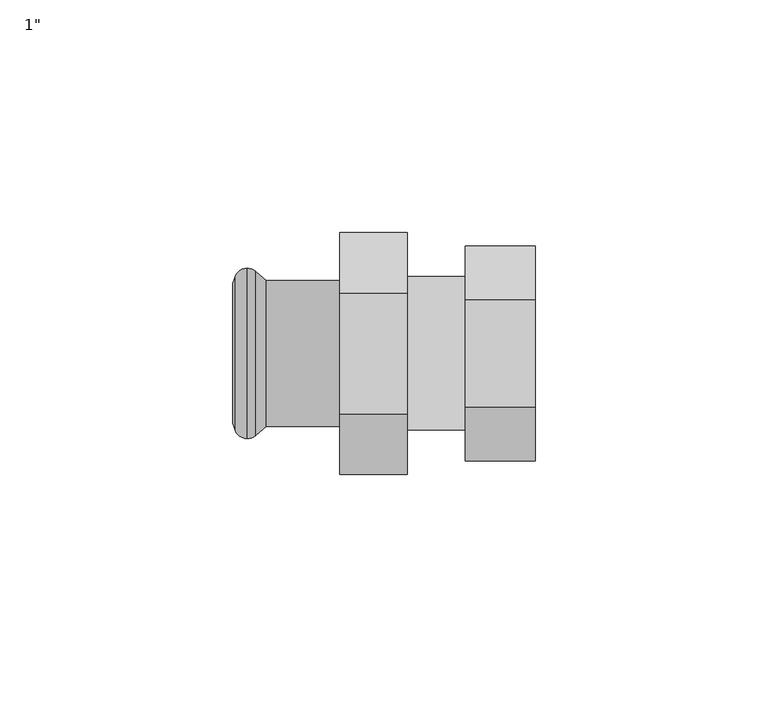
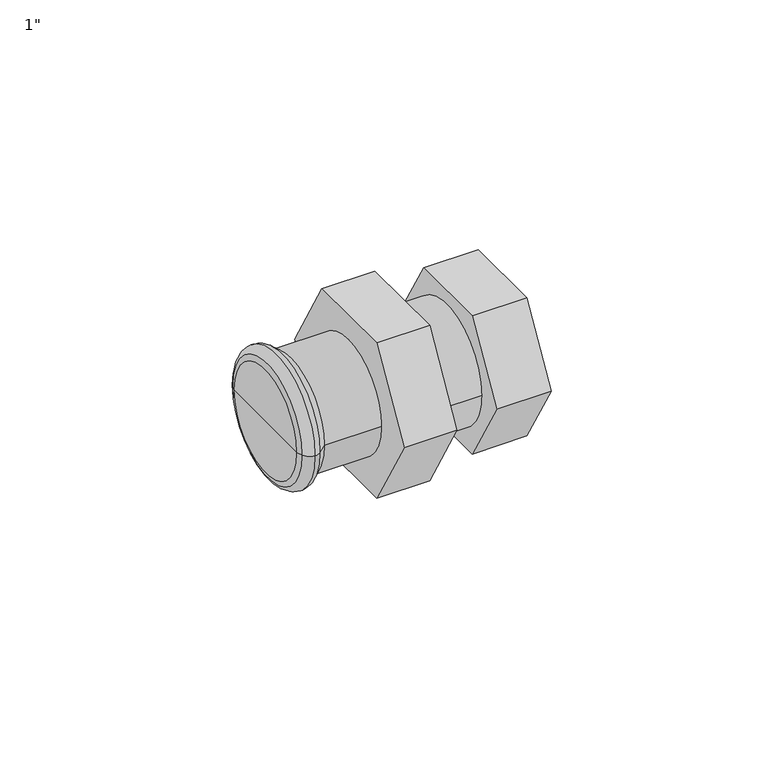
"""IFC4 building model written with IfcOpenShell, lengths in millimetres: pipe fitting geometry."""

import ifcopenshell
import ifcopenshell.guid

model = None  # the IFC model being written
_history = None  # IfcOwnerHistory: only IFC2X3 demands one
_inside = {}  # id of a spatial element -> (the spatial element, [elements in it])
_under = {}  # id of a project, library or spatial element -> (it, [spatial elements below it])
_declared = {}  # id of a project -> (the project, [libraries it declares])
_typed = {}  # id of a type object -> (the type object, [elements of that type])
_made_of = {}  # id of a material, layer set ... -> (it, [elements and type objects made of it])


def new_model(schema):
    """Start an empty IFC model of exactly this schema.

    Asked for "IFC4X3", IfcOpenShell would pick the latest addendum, in which some entities
    have other attributes; the version numbers below select the first issue.
    IFC2X3 requires an IfcOwnerHistory on every rooted entity: one is made here for all.
    """
    global model, _history
    if schema == "IFC4X3":
        model = ifcopenshell.file(schema_version=(4, 3, 0, 0))
    else:
        model = ifcopenshell.file(schema=schema)
    _inside.clear()
    _under.clear()
    _declared.clear()
    _typed.clear()
    _made_of.clear()
    _history = None
    if model.schema == "IFC2X3":
        org = make("IfcOrganization", Name="unknown")
        user = make(
            "IfcPersonAndOrganization",
            ThePerson=make("IfcPerson", FamilyName="unknown"),
            TheOrganization=org,
        )
        app = make(
            "IfcApplication",
            ApplicationDeveloper=org,
            Version="unknown",
            ApplicationFullName="unknown",
            ApplicationIdentifier="unknown",
        )
        _history = make(
            "IfcOwnerHistory",
            OwningUser=user,
            OwningApplication=app,
            ChangeAction="ADDED",
            CreationDate=0,
        )
    return model


def make(cls, **values):
    """One entity of the class cls with the attributes given. An attribute that is None is left unset."""
    return model.create_entity(
        cls, **{name: value for name, value in values.items() if value is not None}
    )


def rooted(cls, **values):
    """An entity with a GlobalId (a new one), such as an element, a storey or a relation."""
    return make(cls, GlobalId=ifcopenshell.guid.new(), OwnerHistory=_history, **values)


def si_unit(unit_type, name, prefix=None):
    """IfcSIUnit, for example si_unit("LENGTHUNIT", "METRE", prefix="MILLI")."""
    return make("IfcSIUnit", UnitType=unit_type, Prefix=prefix, Name=name)


def assignment(units):
    """IfcUnitAssignment: the units of a project."""
    return None if units is None else make("IfcUnitAssignment", Units=units)


def point(xyz):
    """IfcCartesianPoint."""
    return None if xyz is None else make("IfcCartesianPoint", Coordinates=xyz)


def direction(xyz):
    """IfcDirection."""
    return None if xyz is None else make("IfcDirection", DirectionRatios=xyz)


def frame(location, z_axis=None, x_axis=None):
    """IfcAxis2Placement3D, a coordinate frame: its origin and axes. An axis left out is left unset."""
    return make(
        "IfcAxis2Placement3D",
        Location=point(location),
        Axis=direction(z_axis),
        RefDirection=direction(x_axis),
    )


def frame_2d(location, x_axis=None):
    """IfcAxis2Placement2D, a coordinate frame in the plane: its origin and x axis."""
    return make(
        "IfcAxis2Placement2D", Location=point(location), RefDirection=direction(x_axis)
    )


def origin():
    """The frame at (0, 0, 0) with its axes left unset."""
    return frame((0.0, 0.0, 0.0))


def origin_2d():
    """The frame at (0, 0) in the plane with its x axis left unset."""
    return frame_2d((0.0, 0.0))


def place(relative_to, where):
    """IfcLocalPlacement: puts the frame where relative to a parent placement (None: the world)."""
    return make(
        "IfcLocalPlacement", PlacementRelTo=relative_to, RelativePlacement=where
    )


def context(
    kind, dimensions, precision=None, world=None, true_north=None, identifier=None
):
    """IfcGeometricRepresentationContext, for example the 3D "Model" context."""
    return make(
        "IfcGeometricRepresentationContext",
        ContextIdentifier=identifier,
        ContextType=kind,
        CoordinateSpaceDimension=dimensions,
        Precision=precision,
        WorldCoordinateSystem=world,
        TrueNorth=true_north,
    )


def project(units=None, contexts=None):
    """IfcProject with its units and contexts."""
    return rooted(
        "IfcProject",
        Name="project",
        RepresentationContexts=contexts,
        UnitsInContext=assignment(units),
    )


def spatial(cls, under=None, at=None, **own):
    """A site, building, storey or space (cls), placed at a placement, below another one or the project."""
    s = rooted(cls, ObjectPlacement=at, **own)
    if under is not None:
        _under.setdefault(under.id(), (under, []))[1].append(s)
    return s


def polyline(points):
    """IfcPolyline through the points."""
    return make("IfcPolyline", Points=[point(p) for p in points])


def circle_curve(where, radius):
    """IfcCircle in the frame where."""
    return make("IfcCircle", Position=where, Radius=radius)


def ellipse_curve(where, semi_axis1, semi_axis2):
    """IfcEllipse in the frame where."""
    return make(
        "IfcEllipse", Position=where, SemiAxis1=semi_axis1, SemiAxis2=semi_axis2
    )


def trimmed(basis, trim1, trim2, sense, master):
    """IfcTrimmedCurve: the piece of a basis curve between two trims."""
    return make(
        "IfcTrimmedCurve",
        BasisCurve=basis,
        Trim1=trim1,
        Trim2=trim2,
        SenseAgreement=sense,
        MasterRepresentation=master,
    )


def segment(curve, same_sense, transition):
    """IfcCompositeCurveSegment."""
    return make(
        "IfcCompositeCurveSegment",
        Transition=transition,
        SameSense=same_sense,
        ParentCurve=curve,
    )


def composite_curve(segments, self_intersect=None):
    """IfcCompositeCurve: segments joined end to end."""
    return make("IfcCompositeCurve", Segments=segments, SelfIntersect=self_intersect)


def outline(outer, holes=None, kind="AREA"):
    """IfcArbitraryClosedProfileDef: a profile drawn as a closed curve; with holes, ...WithVoids."""
    if holes is None:
        return make("IfcArbitraryClosedProfileDef", ProfileType=kind, OuterCurve=outer)
    return make(
        "IfcArbitraryProfileDefWithVoids",
        ProfileType=kind,
        OuterCurve=outer,
        InnerCurves=holes,
    )


def extrude(swept, where, along, depth):
    """IfcExtrudedAreaSolid: the profile swept, set in the frame where, extruded along a direction by depth."""
    return make(
        "IfcExtrudedAreaSolid",
        SweptArea=swept,
        Position=where,
        ExtrudedDirection=direction(along),
        Depth=depth,
    )


def shape(context_of_items, identifier, shape_type, items):
    """IfcShapeRepresentation: the items that make up one representation, for example the "Body"."""
    return make(
        "IfcShapeRepresentation",
        ContextOfItems=context_of_items,
        RepresentationIdentifier=identifier,
        RepresentationType=shape_type,
        Items=items,
    )


def source(mapping_origin, context_of_items, identifier, shape_type, items):
    """IfcRepresentationMap: a shape defined once, which mapped items show again and again."""
    return make(
        "IfcRepresentationMap",
        MappingOrigin=mapping_origin,
        MappedRepresentation=shape(context_of_items, identifier, shape_type, items),
    )


def transform(
    local_origin,
    x_axis=None,
    y_axis=None,
    z_axis=None,
    scale=None,
    scale2=None,
    scale3=None,
    uniform=True,
):
    """IfcCartesianTransformationOperator3D, or its non-uniform kind. x_axis, y_axis, z_axis: its Axis1, 2, 3."""
    if uniform:
        return make(
            "IfcCartesianTransformationOperator3D",
            Axis1=direction(x_axis),
            Axis2=direction(y_axis),
            LocalOrigin=point(local_origin),
            Scale=scale,
            Axis3=direction(z_axis),
        )
    return make(
        "IfcCartesianTransformationOperator3DnonUniform",
        Axis1=direction(x_axis),
        Axis2=direction(y_axis),
        LocalOrigin=point(local_origin),
        Scale=scale,
        Axis3=direction(z_axis),
        Scale2=scale2,
        Scale3=scale3,
    )


def mapped(mapping_source, mapping_target):
    """IfcMappedItem: shows the shape of a source again, moved by a transform."""
    return make(
        "IfcMappedItem", MappingSource=mapping_source, MappingTarget=mapping_target
    )


def made_of(thing, what):
    """Note that an element or type object is made of a material, layer set ...; save() writes the relation."""
    if what is not None:
        _made_of.setdefault(what.id(), (what, []))[1].append(thing)
    return thing


def element(
    cls,
    number,
    at=None,
    inside=None,
    cuts=None,
    type_object=None,
    material=None,
    context=None,
    identifier="Body",
    shape_type=None,
    held_by="IfcProductDefinitionShape",
    body=None,
    shapes=None,
    **own,
):
    """One element of the class cls, such as IfcWall. Its Tag is "e" and its number.

    at: its placement. inside: the storey or other place that contains it. cuts: it is an
    opening in that element (IfcRelVoidsElement). A single representation is given by context,
    identifier, shape_type and body (its items); several are given by shapes. held_by: the class
    of the entity that holds the representations. save() writes the other relations.
    """
    e = rooted(cls, Tag="e%d" % number, ObjectPlacement=at, **own)
    if body is not None:
        shapes = [shape(context, identifier, shape_type, body)]
    if shapes is not None:
        e.Representation = make(held_by, Representations=shapes)
    if inside is not None:
        _inside.setdefault(inside.id(), (inside, []))[1].append(e)
    if cuts is not None:
        rooted(
            "IfcRelVoidsElement", RelatingBuildingElement=cuts, RelatedOpeningElement=e
        )
    if type_object is not None:
        _typed.setdefault(type_object.id(), (type_object, []))[1].append(e)
    return made_of(e, material)


def aggregate(whole, parts):
    """IfcRelAggregates: a whole, such as a stair, and the parts it consists of."""
    return rooted("IfcRelAggregates", RelatingObject=whole, RelatedObjects=parts)


def save(model, path):
    """Write the relations noted so far, then the file.

    IfcRelAggregates (storeys below a building ...), IfcRelContainedInSpatialStructure (elements
    in a storey), IfcRelDefinesByType, IfcRelAssociatesMaterial and IfcRelDeclares: one each for
    every whole, place, type object, material and project.
    """
    for whole, parts in _under.values():
        aggregate(whole, parts)
    for where, things in _inside.values():
        rooted(
            "IfcRelContainedInSpatialStructure",
            RelatedElements=things,
            RelatingStructure=where,
        )
    for kind, things in _typed.values():
        rooted("IfcRelDefinesByType", RelatedObjects=things, RelatingType=kind)
    for what, things in _made_of.values():
        rooted("IfcRelAssociatesMaterial", RelatedObjects=things, RelatingMaterial=what)
    for by, libraries in _declared.values():
        rooted("IfcRelDeclares", RelatingContext=by, RelatedDefinitions=libraries)
    model.write(path)


def plane_surface(at):
    """IfcPlane: the flat surface through the origin of the frame at, square to its z axis."""
    return make("IfcPlane", Position=at)


def cylinder_surface(at, radius):
    """IfcCylindricalSurface: all points at the distance radius from the z axis of the frame at."""
    return make("IfcCylindricalSurface", Position=at, Radius=radius)


def revolved_surface(curve, axis_point, axis_direction):
    """IfcSurfaceOfRevolution: the curve turned about the line through axis_point along axis_direction."""
    return make(
        "IfcSurfaceOfRevolution",
        SweptCurve=make("IfcArbitraryOpenProfileDef", ProfileType="CURVE", Curve=curve),
        AxisPosition=make("IfcAxis1Placement", Location=point(axis_point), Axis=direction(axis_direction)),
    )


def advanced_brep(points, edges, surfaces, faces):
    """IfcAdvancedBrep: a solid bounded by faces that lie on surfaces and meet in shared edges.

    An edge is (start, end): straight between two places in points (the first is 0);
    or (start, end, curve); or (start, end, curve, False) where it runs against its curve.
    A face is (place in surfaces, loops), or (place, loops, False) where it looks against
    its surface's normal. A loop lists edges by number (the first is 1), with a minus sign
    where the edge is run from its end to its start. The first loop is the outer one.
    """
    corners = [point(p) for p in points]
    vertices = [make("IfcVertexPoint", VertexGeometry=c) for c in corners]
    made = []
    for start, end, *more in edges:
        made.append(
            make(
                "IfcEdgeCurve",
                EdgeStart=vertices[start],
                EdgeEnd=vertices[end],
                EdgeGeometry=more[0] if more else make("IfcPolyline", Points=[corners[start], corners[end]]),
                SameSense=more[1] if len(more) > 1 else True,
            )
        )
    hull = []
    for where, loops, *sense in faces:
        bounds = []
        for j, loop in enumerate(loops):
            ring = [make("IfcOrientedEdge", EdgeElement=made[abs(k) - 1], Orientation=k > 0) for k in loop]
            bounds.append(
                make(
                    "IfcFaceOuterBound" if j == 0 else "IfcFaceBound",
                    Bound=make("IfcEdgeLoop", EdgeList=ring),
                    Orientation=True,
                )
            )
        hull.append(make("IfcAdvancedFace", Bounds=bounds, FaceSurface=surfaces[where], SameSense=sense[0] if sense else True))
    return make("IfcAdvancedBrep", Outer=make("IfcClosedShell", CfsFaces=hull))


def pipe_fitting_c4248d66(model_context):
    return source(origin(), model_context, "Body", "SolidModel", [
        extrude(outline(polyline([(-23.0940108, 0.0), (-11.5470054, 20.0), (11.5470054, 20.0), (23.0940108, 0.0), (11.5470054, -20.0), (-11.5470054, -20.0), (-23.0940108, 0.0)])), frame((27.0, 0.0, 0.0), z_axis=(1.0, 0.0, 0.0), x_axis=(0.0, 1.0, 0.0)), (0.0, 0.0, 1.0), 15.0),
        extrude(outline(composite_curve([segment(trimmed(circle_curve(origin_2d(), 16.5), [point((-16.5, 0.0))], [point((16.5, 0.0))], False, "CARTESIAN"), True, "CONTINUOUS"), segment(trimmed(circle_curve(origin_2d(), 16.5), [point((16.5, 0.0))], [point((-16.5, 0.0))], False, "CARTESIAN"), True, "CONTINUOUS")], self_intersect=False)), frame((14.5, 0.0, 0.0), z_axis=(1.0, 0.0, 0.0), x_axis=(0.0, 1.0, 0.0)), (0.0, 0.0, 1.0), 12.5),
        extrude(outline(polyline([(-25.9807621, 0.0), (-12.9903811, 22.5), (12.9903811, 22.5), (25.9807621, 0.0), (12.9903811, -22.5), (-12.9903811, -22.5), (-25.9807621, 0.0)])), frame((0.0, 0.0, 0.0), z_axis=(1.0, 0.0, 0.0), x_axis=(0.0, 1.0, 0.0)), (0.0, 0.0, 1.0), 14.5),
        advanced_brep(
        [(-15.7838092, -15.7, 0.0), (-15.7838092, 15.7, 0.0), (0.0, 15.7, 0.0), (0.0, -15.7, 0.0), (-18.0922627, -17.6370225, 0.0), (-18.0922627, 17.6370225, 0.0), (-19.8921278, -18.325, 0.0), (-19.8921278, 18.325, 0.0), (-22.432052, -16.5484544, 0.0), (-22.432052, 16.5484544, 0.0), (-23.0, -14.9880302, 0.0), (-23.0, 14.9880302, 0.0), (-23.0, 0.0, 0.0), (0.0, 0.0, 0.0)],
        [
            (0, 1, circle_curve(frame((-15.7838092, 0.0, 0.0), z_axis=(1.0, 0.0, 0.0), x_axis=(0.0, 1.0, 0.0)), 15.7)),
            (1, 2),
            (2, 3, circle_curve(frame((0.0, 0.0, 0.0), z_axis=(-1.0, 0.0, 0.0), x_axis=(0.0, 1.0, 0.0)), 15.7)),
            (3, 0),
            (1, 0, circle_curve(frame((-15.7838092, 0.0, 0.0), z_axis=(1.0, 0.0, 0.0), x_axis=(0.0, 1.0, 0.0)), 15.7)),
            (3, 2, circle_curve(frame((0.0, 0.0, 0.0), z_axis=(-1.0, 0.0, 0.0), x_axis=(0.0, 1.0, 0.0)), 15.7)),
            (4, 5, circle_curve(frame((-18.0922627, 0.0, 0.0), z_axis=(1.0, 0.0, 0.0), x_axis=(0.0, 1.0, 0.0)), 17.6370225)),
            (5, 1),
            (0, 4),
            (5, 4, circle_curve(frame((-18.0922627, 0.0, 0.0), z_axis=(1.0, 0.0, 0.0), x_axis=(0.0, 1.0, 0.0)), 17.6370225)),
            (6, 7, circle_curve(frame((-19.8921278, 0.0, 0.0), z_axis=(1.0, 0.0, 0.0), x_axis=(0.0, 1.0, 0.0)), 18.325)),
            (7, 5, circle_curve(frame((-19.8935049, 15.6230333, 0.0), z_axis=(0.0, 0.0, -1.0), x_axis=(1.0, 0.0, 0.0)), 2.701967)),
            (4, 6, circle_curve(frame((-19.8935049, -15.6230333, 0.0), z_axis=(0.0, 0.0, -1.0), x_axis=(1.0, 0.0, 0.0)), 2.701967)),
            (7, 6, circle_curve(frame((-19.8921278, 0.0, 0.0), z_axis=(1.0, 0.0, 0.0), x_axis=(0.0, 1.0, 0.0)), 18.325)),
            (8, 9, circle_curve(frame((-22.432052, 0.0, 0.0), z_axis=(1.0, 0.0, 0.0), x_axis=(0.0, 1.0, 0.0)), 16.5484544)),
            (9, 7, circle_curve(frame((-19.89488, 15.6249993, 0.0), z_axis=(0.0, 0.0, -1.0), x_axis=(1.0, 0.0, 0.0)), 2.7000021)),
            (6, 8, circle_curve(frame((-19.89488, -15.6249993, 0.0), z_axis=(0.0, 0.0, -1.0), x_axis=(1.0, 0.0, 0.0)), 2.7000021)),
            (9, 8, circle_curve(frame((-22.432052, 0.0, 0.0), z_axis=(1.0, 0.0, 0.0), x_axis=(0.0, 1.0, 0.0)), 16.5484544)),
            (10, 11, circle_curve(frame((-23.0, 0.0, 0.0), z_axis=(1.0, 0.0, 0.0), x_axis=(0.0, 1.0, 0.0)), 14.9880302)),
            (11, 9),
            (8, 10),
            (11, 10, circle_curve(frame((-23.0, 0.0, 0.0), z_axis=(1.0, 0.0, 0.0), x_axis=(0.0, 1.0, 0.0)), 14.9880302)),
            (12, 11),
            (10, 12),
            (2, 13),
            (13, 3),
        ],
        [
            cylinder_surface(frame((1355.742668, 0.0, 0.0), z_axis=(-1.0, 0.0, 0.0), x_axis=(0.0, 1.0, 0.0)), 15.7),
            revolved_surface(polyline([(-15.7838092, 15.7, 0.0), (-18.0922627, 17.6370225, 0.0)]), (1355.742668, 0.0, 0.0), (-1.0, 0.0, 0.0)),
            revolved_surface(trimmed(ellipse_curve(frame((-19.8935049, 15.6230333, 0.0), z_axis=(0.0, 0.0, 1.0), x_axis=(1.0, 0.0, 0.0)), 2.701967, 2.701967), [point((-18.0922627, 17.6370225, 0.0))], [point((-19.8921278, 18.325, 0.0))], True, "CARTESIAN"), (1355.742668, 0.0, 0.0), (-1.0, 0.0, 0.0)),
            revolved_surface(trimmed(ellipse_curve(frame((-19.89488, 15.6249993, 0.0), z_axis=(0.0, 0.0, 1.0), x_axis=(1.0, 0.0, 0.0)), 2.7000021, 2.7000021), [point((-19.8921278, 18.325, 0.0))], [point((-22.432052, 16.5484544, 0.0))], True, "CARTESIAN"), (1355.742668, 0.0, 0.0), (-1.0, 0.0, 0.0)),
            revolved_surface(polyline([(-22.432052, 16.5484544, 0.0), (-23.0, 14.9880302, 0.0)]), (1355.742668, 0.0, 0.0), (-1.0, 0.0, 0.0)),
            plane_surface(frame((-23.0, 0.0, 0.0), z_axis=(-1.0, 0.0, 0.0), x_axis=(0.0, 1.0, 0.0))),
            plane_surface(frame((0.0, 0.0, 0.0), z_axis=(1.0, 0.0, 0.0), x_axis=(0.0, 1.0, 0.0))),
        ],
        [
            (0, [[1, 2, 3, 4]]),
            (0, [[5, -4, 6, -2]]),
            (1, [[7, 8, -1, 9]]),
            (1, [[10, -9, -5, -8]]),
            (2, [[11, 12, -7, 13]]),
            (2, [[14, -13, -10, -12]]),
            (3, [[15, 16, -11, 17]]),
            (3, [[18, -17, -14, -16]]),
            (4, [[19, 20, -15, 21]]),
            (4, [[22, -21, -18, -20]]),
            (5, [[23, -19, 24]]),
            (5, [[-24, -22, -23]]),
            (6, [[-3, 25, 26]]),
            (6, [[-6, -26, -25]]),
        ],
    ),
    ])


if __name__ == "__main__":
    model = new_model("IFC4")
    model_context = context("Model", 3, world=origin())
    ifc_project = project(units=[si_unit("LENGTHUNIT", "METRE", prefix="MILLI")], contexts=[model_context])
    site = spatial("IfcSite", under=ifc_project)
    building = spatial("IfcBuilding", under=site)
    placement = place(None, origin())
    pipe_fitting_shape = pipe_fitting_c4248d66(model_context)
    element("IfcPipeFitting", 1, ObjectType="KAN-therm Steel śrubunek GW : 1\"", at=placement, inside=building, context=model_context, shape_type="MappedRepresentation", body=[
        mapped(pipe_fitting_shape, transform((0.0, 0.0, 0.0), x_axis=(1.0, 0.0, 0.0), y_axis=(0.0, 1.0, 0.0), z_axis=(0.0, 0.0, 1.0))),
    ])
    save(model, "model.ifc")
